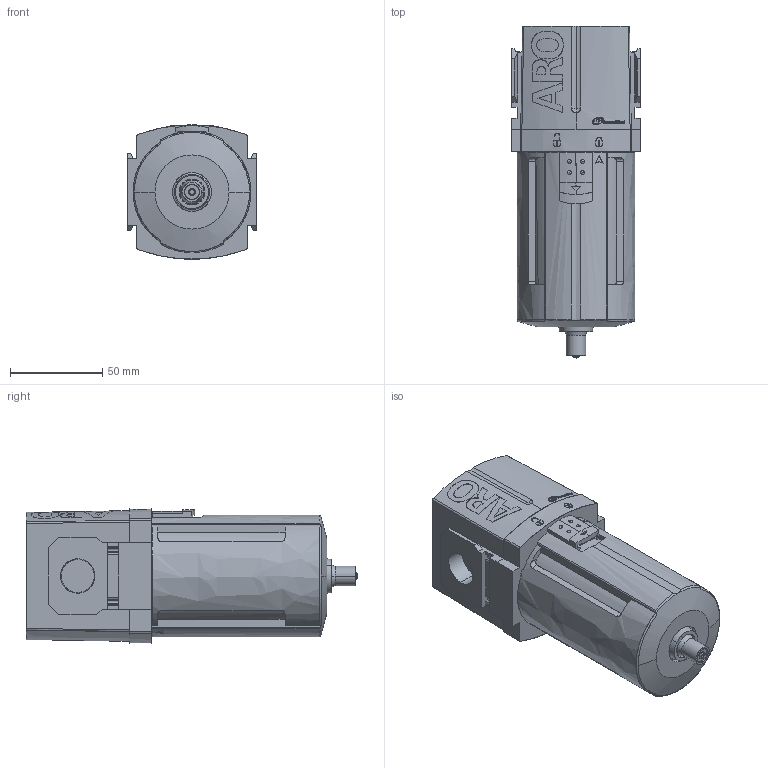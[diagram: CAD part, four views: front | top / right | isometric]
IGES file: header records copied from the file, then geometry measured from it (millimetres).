
Global section: file name: C:\Documents and Settings\szeedyk\Desktop\F353XX-X0X_01.igs; native system: NX V4.0; preprocessor: UGS NX IGES V4.0; date: 20090204.140646; units: inch
Bounding box: 70 x 180.11 x 73 mm (x, y, z)
Surface area: 85653.2 mm2 (no closed solid volume)
Topology: 0 solids, 0 shells, 921 faces, 5553 edges, 5545 vertices
Faces by surface type: bspline 921
